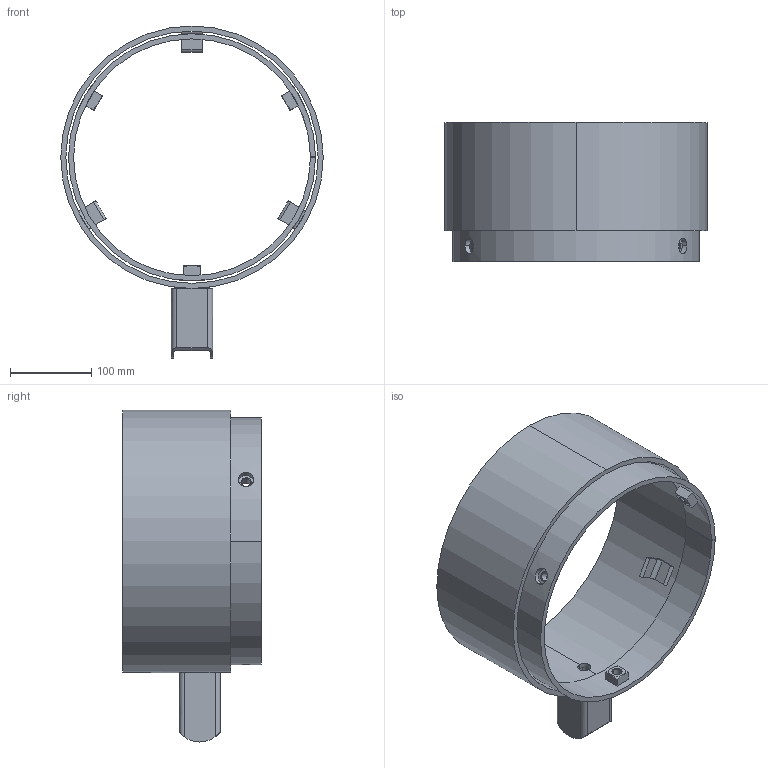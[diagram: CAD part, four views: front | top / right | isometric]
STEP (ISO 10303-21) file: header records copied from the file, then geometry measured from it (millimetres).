
FILE_DESCRIPTION (( 'STEP AP203' ), '1' );
FILE_NAME ('cad-155_1_Series_5.25_Mounting_Ring_dwg.STEP', '2019-05-03T02:35:53', ( '' ), ( '' ), 'SwSTEP 2.0', 'SolidWorks 2018', '' );
FILE_SCHEMA (( 'CONFIG_CONTROL_DESIGN' ));
Length unit declared in the file: inch
Products named in the file (1): cad-155_1_Series_5.25_Mounting_Ring_dwg
Bounding box: 323.85 x 171.45 x 409.58 mm (x, y, z)
Volume: 1169022.3 mm3; surface area: 417979.3 mm2
Topology: 9 solids, 9 shells, 132 faces, 314 edges, 198 vertices
Faces by surface type: plane 51, cylinder 48, cone 27, bspline 6
Entity records: 6293 total; most frequent: CARTESIAN_POINT 3161, ORIENTED_EDGE 628, DIRECTION 624, EDGE_CURVE 314, AXIS2_PLACEMENT_3D 237, VERTEX_POINT 198, EDGE_LOOP 152, LINE 150
